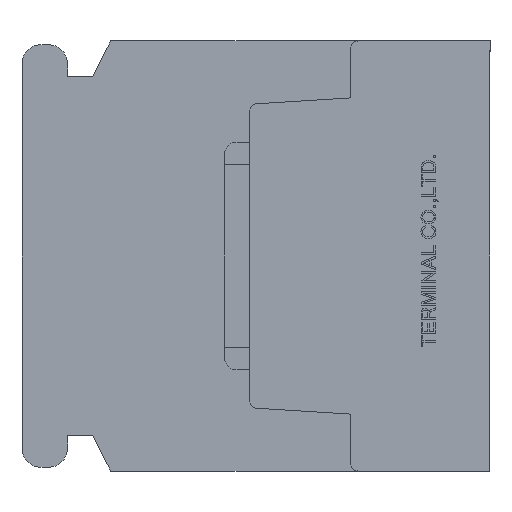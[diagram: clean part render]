
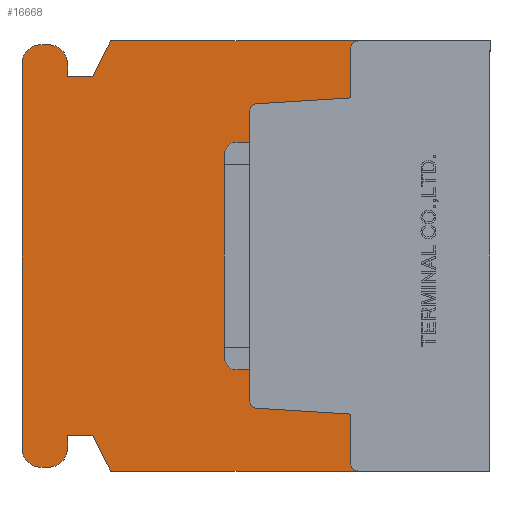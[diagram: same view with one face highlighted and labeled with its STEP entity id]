
A CAD part, left-side view. The second image highlights one B-rep face of the part: STEP entity #16668.
In plain terms, the highlighted planar face has unit normal (-1, 0, 0).
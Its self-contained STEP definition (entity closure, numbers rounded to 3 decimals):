
#1044=CIRCLE('',#17752,0.3);
#1046=CIRCLE('',#17756,0.3);
#1048=CIRCLE('',#17761,0.3);
#1050=CIRCLE('',#17764,0.3);
#1059=CIRCLE('',#17921,0.75);
#1060=CIRCLE('',#17922,0.75);
#1061=CIRCLE('',#17923,0.75);
#1062=CIRCLE('',#17924,0.75);
#1641=VERTEX_POINT('',#23794);
#1642=VERTEX_POINT('',#23796);
#1669=VERTEX_POINT('',#23854);
#1670=VERTEX_POINT('',#23856);
#2329=VERTEX_POINT('',#26118);
#2330=VERTEX_POINT('',#26119);
#2333=VERTEX_POINT('',#26127);
#2347=VERTEX_POINT('',#26157);
#2349=VERTEX_POINT('',#26163);
#2351=VERTEX_POINT('',#26169);
#2353=VERTEX_POINT('',#26175);
#2355=VERTEX_POINT('',#26184);
#2702=VERTEX_POINT('',#27726);
#2703=VERTEX_POINT('',#27728);
#2704=VERTEX_POINT('',#27730);
#2705=VERTEX_POINT('',#27732);
#2706=VERTEX_POINT('',#27734);
#2707=VERTEX_POINT('',#27736);
#2708=VERTEX_POINT('',#27738);
#2709=VERTEX_POINT('',#27740);
#2710=VERTEX_POINT('',#27742);
#2711=VERTEX_POINT('',#27744);
#2712=VERTEX_POINT('',#27746);
#2713=VERTEX_POINT('',#27748);
#3360=VECTOR('',#19019,1.);
#3389=VECTOR('',#19052,1.);
#4027=VECTOR('',#20857,1.);
#4044=VECTOR('',#20881,1.);
#4048=VECTOR('',#20892,1.);
#4051=VECTOR('',#20896,1.);
#4055=VECTOR('',#20913,1.);
#4468=VECTOR('',#21491,1.);
#4469=VECTOR('',#21492,1.);
#4470=VECTOR('',#21493,1.);
#4471=VECTOR('',#21496,1.);
#4472=VECTOR('',#21499,1.);
#4473=VECTOR('',#21502,1.);
#4474=VECTOR('',#21505,1.);
#4475=VECTOR('',#21506,1.);
#4476=VECTOR('',#21507,1.);
#5116=LINE('',#23795,#3360);
#5145=LINE('',#23855,#3389);
#5783=LINE('',#26117,#4027);
#5800=LINE('',#26156,#4044);
#5804=LINE('',#26168,#4048);
#5807=LINE('',#26174,#4051);
#5811=LINE('',#26189,#4055);
#6224=LINE('',#27725,#4468);
#6225=LINE('',#27727,#4469);
#6226=LINE('',#27729,#4470);
#6227=LINE('',#27733,#4471);
#6228=LINE('',#27737,#4472);
#6229=LINE('',#27741,#4473);
#6230=LINE('',#27745,#4474);
#6231=LINE('',#27747,#4475);
#6232=LINE('',#27749,#4476);
#7063=EDGE_CURVE('',#1641,#1642,#5116,.T.);
#7093=EDGE_CURVE('',#1669,#1670,#5145,.T.);
#8104=EDGE_CURVE('',#2329,#2330,#5783,.T.);
#8108=EDGE_CURVE('',#2333,#2329,#1044,.T.);
#8123=EDGE_CURVE('',#2347,#2333,#5800,.T.);
#8126=EDGE_CURVE('',#2349,#2347,#1046,.T.);
#8129=EDGE_CURVE('',#2351,#2349,#5804,.T.);
#8132=EDGE_CURVE('',#2353,#2351,#5807,.T.);
#8135=EDGE_CURVE('',#1642,#2353,#1048,.T.);
#8137=EDGE_CURVE('',#2355,#1669,#1050,.T.);
#8140=EDGE_CURVE('',#2330,#2355,#5811,.T.);
#8664=EDGE_CURVE('',#2702,#1641,#6224,.T.);
#8665=EDGE_CURVE('',#2703,#2702,#6225,.T.);
#8666=EDGE_CURVE('',#2704,#2703,#6226,.T.);
#8667=EDGE_CURVE('',#2705,#2704,#1059,.T.);
#8668=EDGE_CURVE('',#2706,#2705,#6227,.T.);
#8669=EDGE_CURVE('',#2707,#2706,#1060,.T.);
#8670=EDGE_CURVE('',#2708,#2707,#6228,.T.);
#8671=EDGE_CURVE('',#2709,#2708,#1061,.T.);
#8672=EDGE_CURVE('',#2710,#2709,#6229,.T.);
#8673=EDGE_CURVE('',#2711,#2710,#1062,.T.);
#8674=EDGE_CURVE('',#2712,#2711,#6230,.T.);
#8675=EDGE_CURVE('',#2713,#2712,#6231,.T.);
#8676=EDGE_CURVE('',#1670,#2713,#6232,.T.);
#13496=ORIENTED_EDGE('',*,*,#8135,.F.);
#13497=ORIENTED_EDGE('',*,*,#7063,.F.);
#13498=ORIENTED_EDGE('',*,*,#8664,.F.);
#13499=ORIENTED_EDGE('',*,*,#8665,.F.);
#13500=ORIENTED_EDGE('',*,*,#8666,.F.);
#13501=ORIENTED_EDGE('',*,*,#8667,.F.);
#13502=ORIENTED_EDGE('',*,*,#8668,.F.);
#13503=ORIENTED_EDGE('',*,*,#8669,.F.);
#13504=ORIENTED_EDGE('',*,*,#8670,.F.);
#13505=ORIENTED_EDGE('',*,*,#8671,.F.);
#13506=ORIENTED_EDGE('',*,*,#8672,.F.);
#13507=ORIENTED_EDGE('',*,*,#8673,.F.);
#13508=ORIENTED_EDGE('',*,*,#8674,.F.);
#13509=ORIENTED_EDGE('',*,*,#8675,.F.);
#13510=ORIENTED_EDGE('',*,*,#8676,.F.);
#13511=ORIENTED_EDGE('',*,*,#7093,.F.);
#13512=ORIENTED_EDGE('',*,*,#8137,.F.);
#13513=ORIENTED_EDGE('',*,*,#8140,.F.);
#13514=ORIENTED_EDGE('',*,*,#8104,.F.);
#13515=ORIENTED_EDGE('',*,*,#8108,.F.);
#13516=ORIENTED_EDGE('',*,*,#8123,.F.);
#13517=ORIENTED_EDGE('',*,*,#8126,.F.);
#13518=ORIENTED_EDGE('',*,*,#8129,.F.);
#13519=ORIENTED_EDGE('',*,*,#8132,.F.);
#14671=EDGE_LOOP('',(#13496,#13497,#13498,#13499,#13500,#13501,#13502,#13503,
#13504,#13505,#13506,#13507,#13508,#13509,#13510,#13511,#13512,#13513,#13514,
#13515,#13516,#13517,#13518,#13519));
#15723=FACE_BOUND('',#14671,.T.);
#16668=ADVANCED_FACE('',(#15723),#28519,.F.);
#17752=AXIS2_PLACEMENT_3D('',#26126,#20863,#20864);
#17756=AXIS2_PLACEMENT_3D('',#26162,#20886,#20887);
#17761=AXIS2_PLACEMENT_3D('',#26180,#20901,#20902);
#17764=AXIS2_PLACEMENT_3D('',#26183,#20907,#20908);
#17920=AXIS2_PLACEMENT_3D('',#27724,#21490,$);
#17921=AXIS2_PLACEMENT_3D('',#27731,#21494,#21495);
#17922=AXIS2_PLACEMENT_3D('',#27735,#21497,#21498);
#17923=AXIS2_PLACEMENT_3D('',#27739,#21500,#21501);
#17924=AXIS2_PLACEMENT_3D('',#27743,#21503,#21504);
#19019=DIRECTION('',(0.,-1.,0.));
#19052=DIRECTION('',(0.,1.,0.));
#20857=DIRECTION('',(0.,-0.998,-0.062));
#20863=DIRECTION('',(-1.,0.,0.));
#20864=DIRECTION('',(0.,0.,-0.3));
#20881=DIRECTION('',(0.,0.,-1.));
#20886=DIRECTION('',(-1.,0.,0.));
#20887=DIRECTION('',(0.,0.,-0.3));
#20892=DIRECTION('',(0.,0.998,-0.062));
#20896=DIRECTION('',(0.,0.,-1.));
#20901=DIRECTION('',(-1.,0.,0.));
#20902=DIRECTION('',(0.,0.,-0.3));
#20907=DIRECTION('',(-1.,0.,0.));
#20908=DIRECTION('',(0.,0.,-0.3));
#20913=DIRECTION('',(0.,0.,-1.));
#21490=DIRECTION('',(1.,0.,0.));
#21491=DIRECTION('',(0.,-0.447,0.894));
#21492=DIRECTION('',(0.,-1.,0.));
#21493=DIRECTION('',(0.,0.,-1.));
#21494=DIRECTION('',(1.,0.,0.));
#21495=DIRECTION('',(0.,0.,-0.75));
#21496=DIRECTION('',(0.,-1.,0.));
#21497=DIRECTION('',(1.,0.,0.));
#21498=DIRECTION('',(0.,0.,-0.75));
#21499=DIRECTION('',(0.,0.,1.));
#21500=DIRECTION('',(1.,0.,0.));
#21501=DIRECTION('',(0.,0.,-0.75));
#21502=DIRECTION('',(0.,1.,0.));
#21503=DIRECTION('',(1.,0.,0.));
#21504=DIRECTION('',(0.,0.,-0.75));
#21505=DIRECTION('',(0.,0.,-1.));
#21506=DIRECTION('',(0.,1.,0.));
#21507=DIRECTION('',(0.,0.447,0.894));
#23794=CARTESIAN_POINT('',(0.,15.,8.5));
#23795=CARTESIAN_POINT('',(0.,15.,8.5));
#23796=CARTESIAN_POINT('',(0.,5.2,8.5));
#23854=CARTESIAN_POINT('',(0.,5.2,-8.5));
#23855=CARTESIAN_POINT('',(0.,0.,-8.5));
#23856=CARTESIAN_POINT('',(0.,15.,-8.5));
#26117=CARTESIAN_POINT('',(0.,9.219,-6.018));
#26118=CARTESIAN_POINT('',(0.,9.219,-6.018));
#26119=CARTESIAN_POINT('',(0.,5.5,-6.25));
#26126=CARTESIAN_POINT('',(0.,9.2,-5.718));
#26127=CARTESIAN_POINT('',(0.,9.5,-5.718));
#26156=CARTESIAN_POINT('',(0.,9.5,5.718));
#26157=CARTESIAN_POINT('',(0.,9.5,5.718));
#26162=CARTESIAN_POINT('',(0.,9.2,5.718));
#26163=CARTESIAN_POINT('',(0.,9.219,6.018));
#26168=CARTESIAN_POINT('',(0.,5.5,6.25));
#26169=CARTESIAN_POINT('',(0.,5.5,6.25));
#26174=CARTESIAN_POINT('',(0.,5.5,8.2));
#26175=CARTESIAN_POINT('',(0.,5.5,8.2));
#26180=CARTESIAN_POINT('',(0.,5.2,8.2));
#26183=CARTESIAN_POINT('',(0.,5.2,-8.2));
#26184=CARTESIAN_POINT('',(0.,5.5,-8.2));
#26189=CARTESIAN_POINT('',(0.,5.5,-6.25));
#27724=CARTESIAN_POINT('',(0.,9.463,0.));
#27725=CARTESIAN_POINT('',(0.,15.7,7.1));
#27726=CARTESIAN_POINT('',(0.,15.7,7.1));
#27727=CARTESIAN_POINT('',(0.,16.7,7.1));
#27728=CARTESIAN_POINT('',(0.,16.7,7.1));
#27729=CARTESIAN_POINT('',(0.,16.7,7.6));
#27730=CARTESIAN_POINT('',(0.,16.7,7.6));
#27731=CARTESIAN_POINT('',(0.,17.45,7.6));
#27732=CARTESIAN_POINT('',(0.,17.45,8.35));
#27733=CARTESIAN_POINT('',(0.,17.75,8.35));
#27734=CARTESIAN_POINT('',(0.,17.75,8.35));
#27735=CARTESIAN_POINT('',(0.,17.75,7.6));
#27736=CARTESIAN_POINT('',(0.,18.5,7.6));
#27737=CARTESIAN_POINT('',(0.,18.5,-7.6));
#27738=CARTESIAN_POINT('',(0.,18.5,-7.6));
#27739=CARTESIAN_POINT('',(0.,17.75,-7.6));
#27740=CARTESIAN_POINT('',(0.,17.75,-8.35));
#27741=CARTESIAN_POINT('',(0.,17.45,-8.35));
#27742=CARTESIAN_POINT('',(0.,17.45,-8.35));
#27743=CARTESIAN_POINT('',(0.,17.45,-7.6));
#27744=CARTESIAN_POINT('',(0.,16.7,-7.6));
#27745=CARTESIAN_POINT('',(0.,16.7,-7.1));
#27746=CARTESIAN_POINT('',(0.,16.7,-7.1));
#27747=CARTESIAN_POINT('',(0.,15.7,-7.1));
#27748=CARTESIAN_POINT('',(0.,15.7,-7.1));
#27749=CARTESIAN_POINT('',(0.,15.,-8.5));
#28519=PLANE('',#17920);
